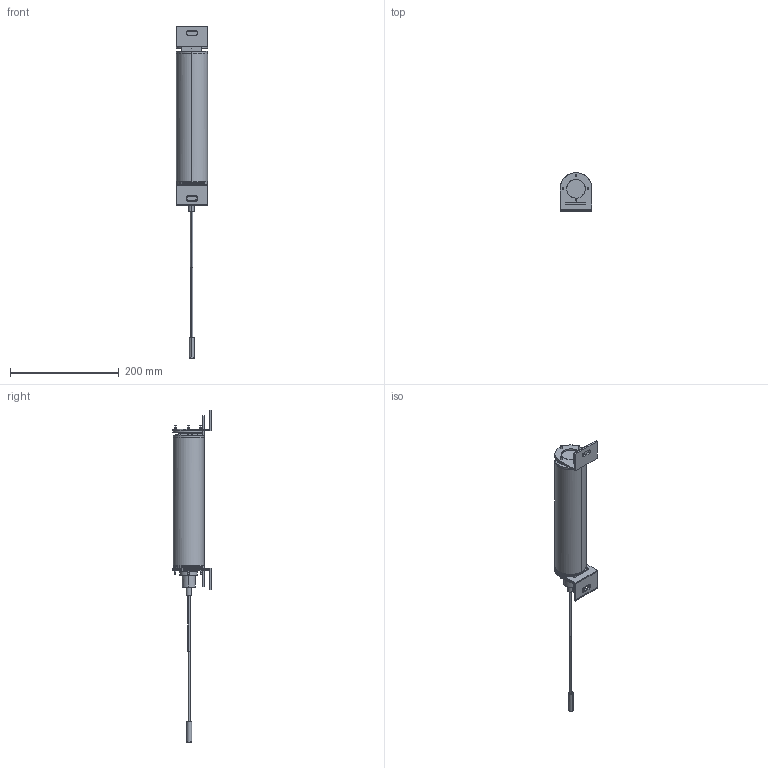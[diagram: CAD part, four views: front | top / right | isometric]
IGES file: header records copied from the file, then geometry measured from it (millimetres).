
Global section: file name: C:\ACADFILES\MG_PYLONS\CUSTOMER_FILES\MG-08-PYLON_3D_SMB.igs; native system: AutoCAD-18.2s (LMS Tech) (Microsoft Windows NT Version 6.1 (x86)); preprocessor: Autodesk IGES Translator Mechanical Desktop 2011 (Feb 18 2011) from Autodesk, Inc.; date: 20140328.141932; units: inch
Bounding box: 57.29 x 69.85 x 609.97 mm (x, y, z)
Surface area: 268802.4 mm2 (no closed solid volume)
Topology: 0 solids, 0 shells, 1800 faces, 9329 edges, 9504 vertices
Faces by surface type: bspline 1800
